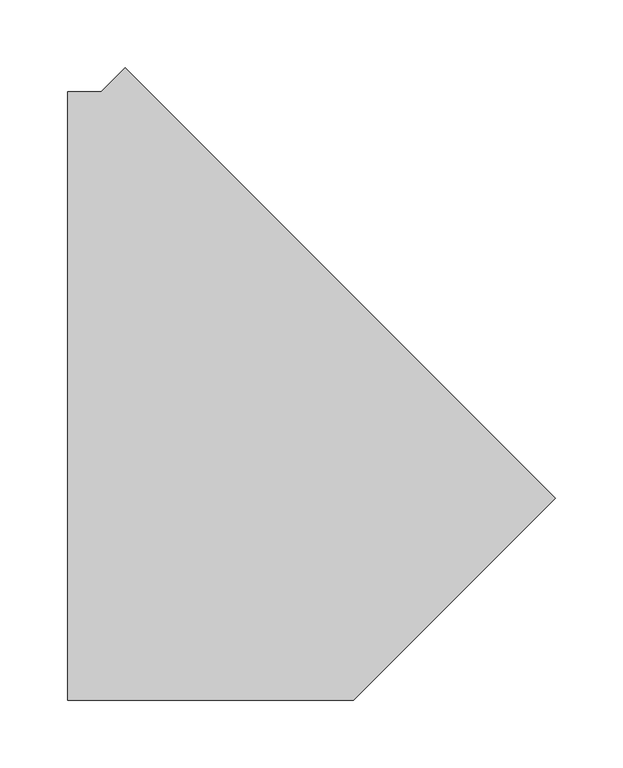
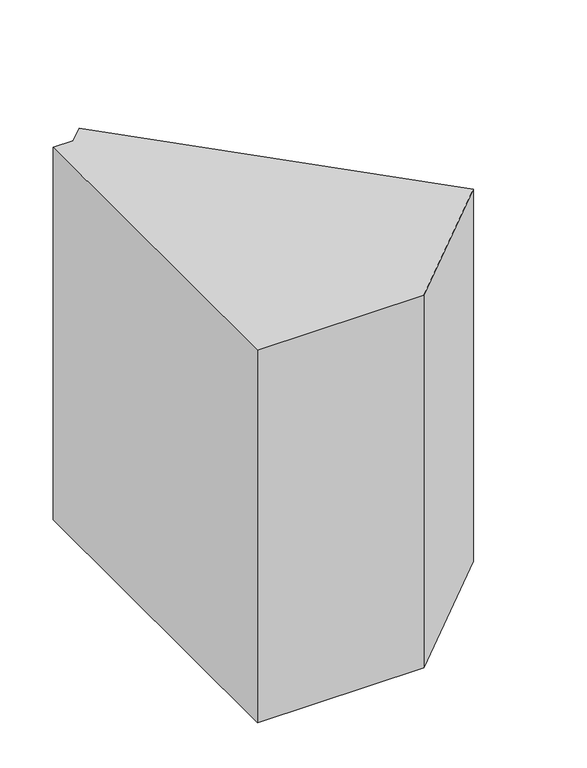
"""IFC4 building model written with IfcOpenShell, lengths in millimetres: duct fitting geometry, 2017_Codo_Climaver_Codo-Rectangular-Biselado : Codo_Rectangular_Biselado_Climaver."""

from ifc_helpers import new_model, si_unit, frame, origin, place, context, project, spatial, polyline, outline, extrude, source, transform, mapped, element, save


def duct_fitting_c430daa1(model_context):
    return source(origin(), model_context, "Body", "SweptSolid", [
        extrude(outline(polyline([(-118.1980515, -225.0), (-118.1980515, 225.0), (-93.1980515, 225.0), (-75.520382, 242.6776695), (242.6776695, -75.520382), (93.1980515, -225.0), (-118.1980515, -225.0)])), frame((0.0, 0.0, -250.0), z_axis=(0.0, 0.0, 1.0), x_axis=(1.0, 0.0, 0.0)), (0.0, 0.0, 1.0), 500.0),
    ])


if __name__ == "__main__":
    model = new_model("IFC4")
    model_context = context("Model", 3, world=origin())
    ifc_project = project(units=[si_unit("LENGTHUNIT", "METRE", prefix="MILLI")], contexts=[model_context])
    site = spatial("IfcSite", under=ifc_project)
    building = spatial("IfcBuilding", under=site)
    placement = place(None, origin())
    duct_fitting_shape = duct_fitting_c430daa1(model_context)
    element("IfcDuctFitting", 1, ObjectType="2017_Codo_Climaver_Codo-Rectangular-Biselado : Codo_Rectangular_Biselado_Climaver", at=placement, inside=building, context=model_context, shape_type="MappedRepresentation", body=[
        mapped(duct_fitting_shape, transform((0.0, 0.0, 0.0), x_axis=(1.0, 0.0, 0.0), y_axis=(0.0, 1.0, 0.0), z_axis=(0.0, 0.0, 1.0))),
    ])
    save(model, "model.ifc")
